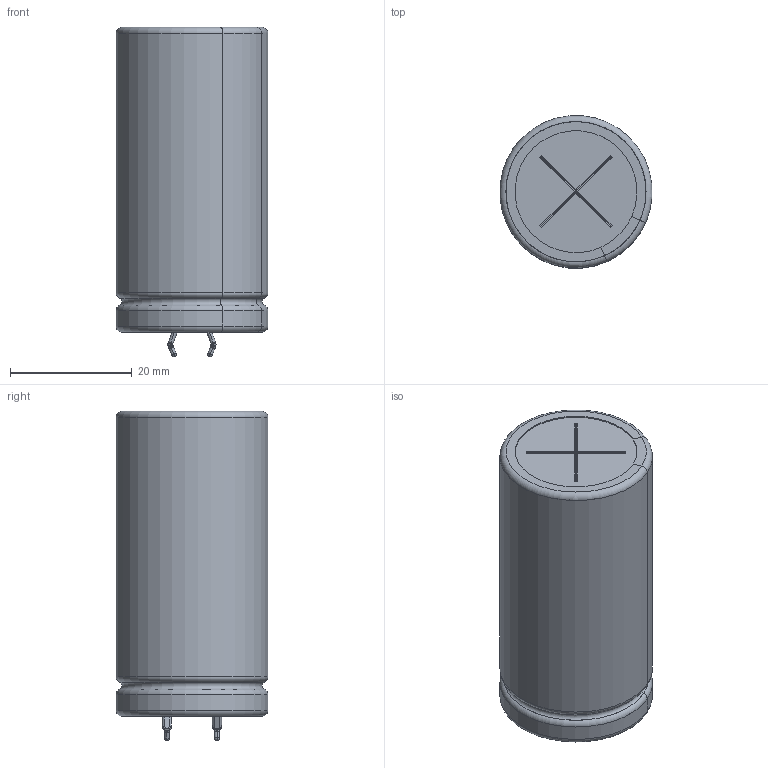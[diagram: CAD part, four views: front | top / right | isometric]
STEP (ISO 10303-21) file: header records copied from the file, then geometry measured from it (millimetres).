
FILE_DESCRIPTION(/* description */ (''),/* implementation_level */ '2;1');
FILE_NAME(/* name */ '25x50_Snap.stp',/* time_stamp */ '2017-09-11T15:05:21+09:00',/* author */ (''),/* organization */ (''),/* preprocessor_version */ 'ST-DEVELOPER v16',/* originating_system */ 'SIEMENS PLM Software NX 11.0',/* authorisation */ '');
FILE_SCHEMA (('AUTOMOTIVE_DESIGN { 1 0 10303 214 3 1 1 1 }'));
Length unit declared in the file: millimetre
Products named in the file (1): 25x50_Snap_0
Bounding box: 24.93 x 24.93 x 54.02 mm (x, y, z)
Volume: 24293.6 mm3; surface area: 13446.2 mm2
Topology: 5 solids, 5 shells, 208 faces, 523 edges, 310 vertices
Faces by surface type: cylinder 76, plane 75, torus 25, sphere 20, bspline 12
Full cylindrical faces by diameter (mm): 4 x2, 24.6 x2
Entity records: 6789 total; most frequent: CARTESIAN_POINT 1265, DIRECTION 1128, ORIENTED_EDGE 988, EDGE_CURVE 494, AXIS2_PLACEMENT_3D 437, VERTEX_POINT 310, LINE 254, VECTOR 254
